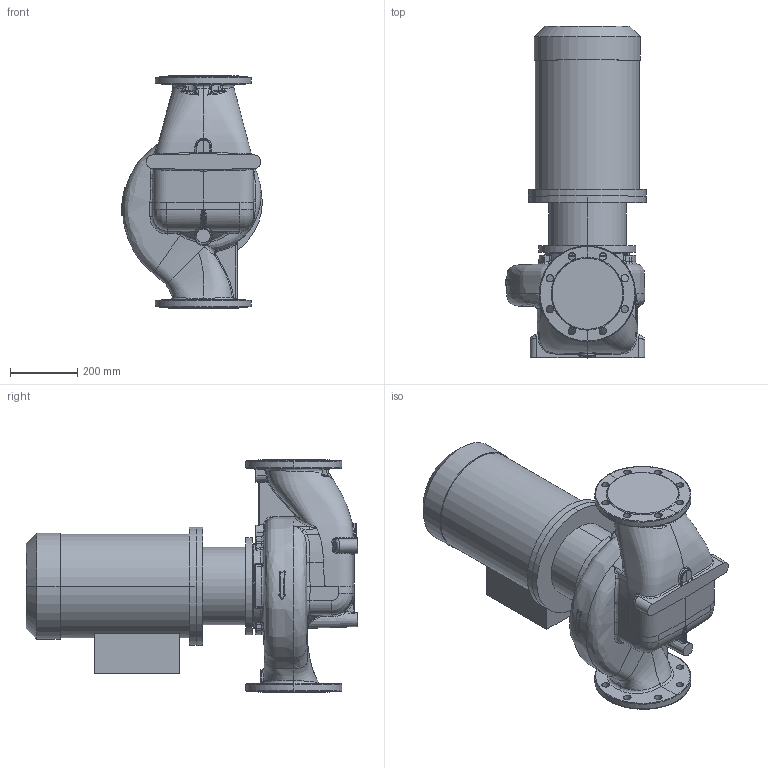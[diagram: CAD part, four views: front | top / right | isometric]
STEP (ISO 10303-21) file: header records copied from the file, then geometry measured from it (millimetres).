
FILE_DESCRIPTION (( 'STEP AP214' ), '1' );
FILE_NAME ('KRL 150-200-4-11.STEP', '2026-04-02T13:47:57', ( '' ), ( '' ), 'SwSTEP 2.0', 'SolidWorks 2016', '' );
FILE_SCHEMA (( 'AUTOMOTIVE_DESIGN' ));
Length unit declared in the file: millimetre
Products named in the file (1): KRL 150-200-4-11
Bounding box: 417.72 x 985.8 x 690 mm (x, y, z)
Volume: 91123110.9 mm3; surface area: 2257903.5 mm2
Topology: 4 solids, 4 shells, 738 faces, 1775 edges, 1028 vertices
Faces by surface type: bspline 368, cylinder 171, plane 106, cone 33, sphere 33, torus 27
Entity records: 75276 total; most frequent: CARTESIAN_POINT 53323, ORIENTED_EDGE 3478, DIRECTION 2078, EDGE_CURVE 1739, VERTEX_POINT 1028, AXIS2_PLACEMENT_3D 892, EDGE_LOOP 789, UNCERTAINTY_MEASURE_WITH_UNIT 744
